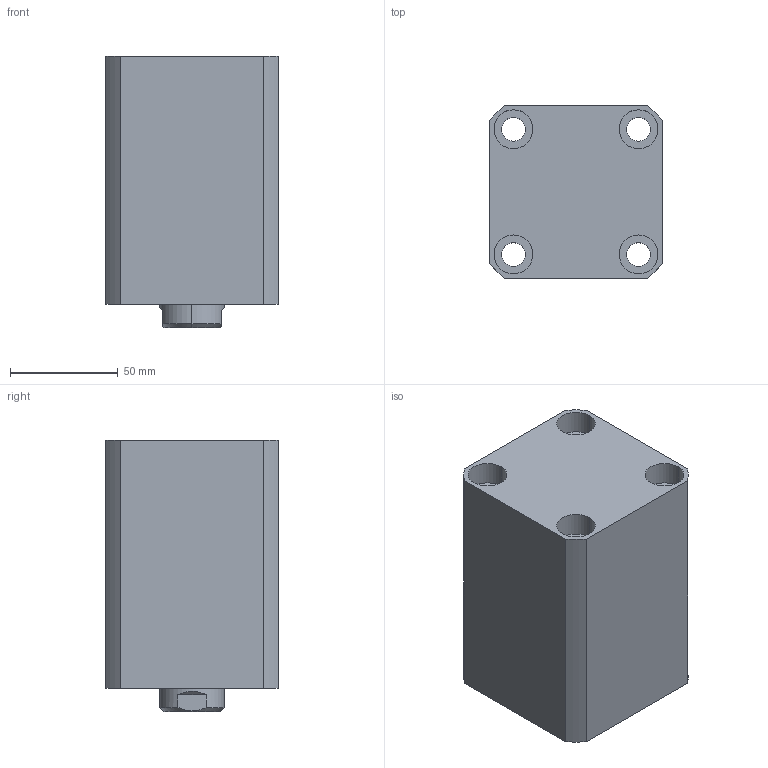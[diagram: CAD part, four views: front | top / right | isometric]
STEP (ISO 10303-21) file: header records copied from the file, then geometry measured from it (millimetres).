
FILE_DESCRIPTION (( 'STEP AP203' ), '1' );
FILE_NAME ('CHTB-SDMA50-55N.STEP', '2018-05-19T02:17:53', ( '' ), ( '' ), 'SwSTEP 2.0', 'SolidWorks 2015', '' );
FILE_SCHEMA (( 'CONFIG_CONTROL_DESIGN' ));
Length unit declared in the file: millimetre
Products named in the file (5): CHTM-SDMA50QG; 活塞杆SDMA50-55N; CHTB-SDMA50-55N; 掛极SDMA50-55N; M6
Assembly tree (5 placements, depth 2):
  CHTB-SDMA50-55N
    掛极SDMA50-55N
    活塞杆SDMA50-55N
    CHTM-SDMA50QG
    M6  x2
Bounding box: 80 x 80 x 126 mm (x, y, z)
Volume: 592455.2 mm3; surface area: 117657.2 mm2
Topology: 5 solids, 5 shells, 270 faces, 703 edges, 464 vertices
Faces by surface type: cylinder 139, plane 58, cone 31, bspline 26, torus 16
Entity records: 14133 total; most frequent: CARTESIAN_POINT 8131, ORIENTED_EDGE 1208, DIRECTION 1054, EDGE_CURVE 604, AXIS2_PLACEMENT_3D 433, VERTEX_POINT 403, EDGE_LOOP 277, FACE_OUTER_BOUND 235
